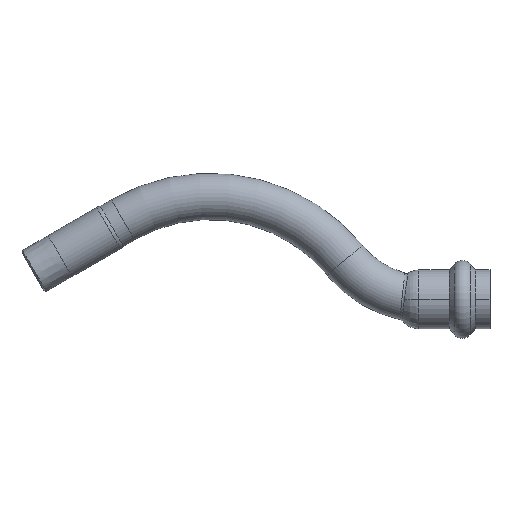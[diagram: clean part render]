
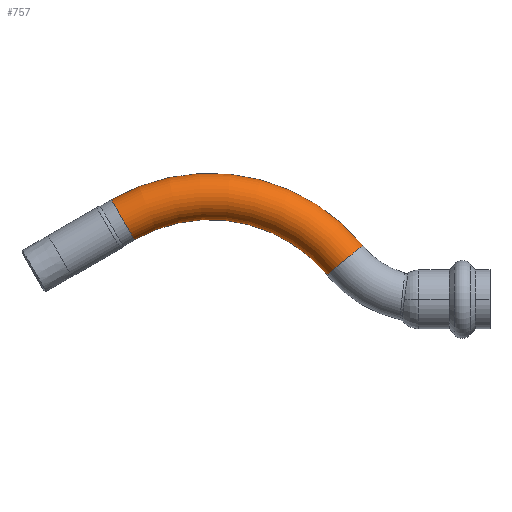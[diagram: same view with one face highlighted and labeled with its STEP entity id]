
A CAD part, top view. The second image highlights one B-rep face of the part: STEP entity #757.
In plain terms, the highlighted toroidal (fillet/blend) face has major radius 44 mm and minor radius 5.85 mm.
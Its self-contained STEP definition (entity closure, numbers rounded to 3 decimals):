
#39 = CIRCLE ( 'NONE', #989, 38.15 ) ;
#57 = DIRECTION ( 'NONE',  ( 1., 0., 0. ) ) ;
#70 = VERTEX_POINT ( 'NONE', #1737 ) ;
#98 = DIRECTION ( 'NONE',  ( 0., 0., 1. ) ) ;
#124 = VERTEX_POINT ( 'NONE', #1775 ) ;
#141 = EDGE_CURVE ( 'NONE', #124, #70, #592, .T. ) ;
#162 = VERTEX_POINT ( 'NONE', #1467 ) ;
#193 = CARTESIAN_POINT ( 'NONE',  ( -89.752, 15.039, 0. ) ) ;
#225 = EDGE_LOOP ( 'NONE', ( #339, #1264, #471, #1112 ) ) ;
#339 = ORIENTED_EDGE ( 'NONE', *, *, #141, .F. ) ;
#373 = AXIS2_PLACEMENT_3D ( 'NONE', #734, #758, #695 ) ;
#392 = CIRCLE ( 'NONE', #548, 5.85 ) ;
#471 = ORIENTED_EDGE ( 'NONE', *, *, #884, .T. ) ;
#548 = AXIS2_PLACEMENT_3D ( 'NONE', #742, #1299, #1309 ) ;
#574 = CARTESIAN_POINT ( 'NONE',  ( -70.677, -18., 0. ) ) ;
#592 = CIRCLE ( 'NONE', #1551, 5.85 ) ;
#695 = DIRECTION ( 'NONE',  ( 1., 0., 0. ) ) ;
#729 = CARTESIAN_POINT ( 'NONE',  ( -70.677, -18., 0. ) ) ;
#734 = CARTESIAN_POINT ( 'NONE',  ( -70.677, -18., 0. ) ) ;
#739 = DIRECTION ( 'NONE',  ( 0., 0., 1. ) ) ;
#742 = CARTESIAN_POINT ( 'NONE',  ( -92.677, 20.105, 0. ) ) ;
#757 = ADVANCED_FACE ( 'NONE', ( #1361 ), #1254, .T. ) ;
#758 = DIRECTION ( 'NONE',  ( 0., 0., 1. ) ) ;
#771 = CIRCLE ( 'NONE', #1720, 49.85 ) ;
#866 = DIRECTION ( 'NONE',  ( 1., 0., 0. ) ) ;
#884 = EDGE_CURVE ( 'NONE', #162, #1486, #392, .T. ) ;
#989 = AXIS2_PLACEMENT_3D ( 'NONE', #729, #739, #866 ) ;
#1112 = ORIENTED_EDGE ( 'NONE', *, *, #1726, .F. ) ;
#1254 = TOROIDAL_SURFACE ( 'NONE', #373, 44., 5.85 ) ;
#1264 = ORIENTED_EDGE ( 'NONE', *, *, #1477, .T. ) ;
#1299 = DIRECTION ( 'NONE',  ( 0.866, 0.5, 0. ) ) ;
#1309 = DIRECTION ( 'NONE',  ( 0., 0., -1. ) ) ;
#1361 = FACE_OUTER_BOUND ( 'NONE', #225, .T. ) ;
#1364 = DIRECTION ( 'NONE',  ( 0., 0., -1. ) ) ;
#1417 = DIRECTION ( 'NONE',  ( 0.634, -0.773, 0. ) ) ;
#1424 = CARTESIAN_POINT ( 'NONE',  ( -36.643, 9.887, 0. ) ) ;
#1467 = CARTESIAN_POINT ( 'NONE',  ( -95.602, 25.171, 0. ) ) ;
#1477 = EDGE_CURVE ( 'NONE', #124, #162, #771, .T. ) ;
#1486 = VERTEX_POINT ( 'NONE', #193 ) ;
#1551 = AXIS2_PLACEMENT_3D ( 'NONE', #1424, #1417, #1364 ) ;
#1720 = AXIS2_PLACEMENT_3D ( 'NONE', #574, #98, #57 ) ;
#1726 = EDGE_CURVE ( 'NONE', #70, #1486, #39, .T. ) ;
#1737 = CARTESIAN_POINT ( 'NONE',  ( -41.168, 6.18, 0. ) ) ;
#1775 = CARTESIAN_POINT ( 'NONE',  ( -32.118, 13.595, 0. ) ) ;
